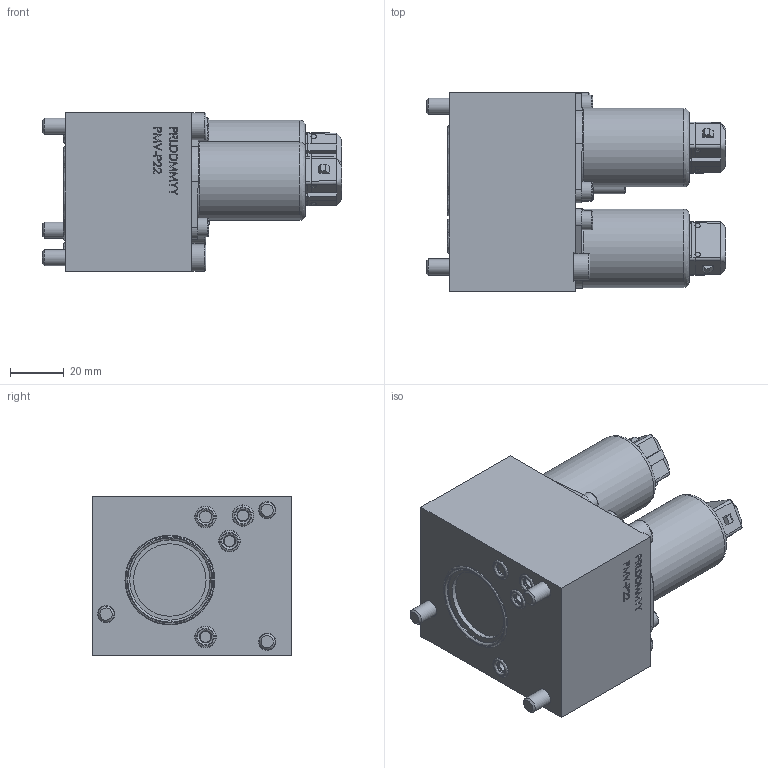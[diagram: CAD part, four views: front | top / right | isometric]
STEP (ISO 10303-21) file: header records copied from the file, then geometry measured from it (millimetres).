
FILE_DESCRIPTION (( 'STEP AP214' ), '1' );
FILE_NAME ('0304543.STEP', '2022-08-02T13:15:32', ( '' ), ( '' ), 'SwSTEP 2.0', 'SolidWorks 2020', '' );
FILE_SCHEMA (( 'AUTOMOTIVE_DESIGN' ));
Length unit declared in the file: millimetre
Products named in the file (10): 0291147_002; 0283782_001; 0074669_079.3160; 0074697_246.1510; 0073842_153.2301; 0290158_012; 0304543; 0074748_246.3156; 0293053_002; 0290158_001
Assembly tree (22 placements, depth 2):
  0304543
    0293053_002
    0291147_002  x2
    0073842_153.2301
    0074697_246.1510  x4
    0074748_246.3156  x3
    0074669_079.3160
    0283782_001  x5
    0290158_001  x4
    0290158_012
Bounding box: 111.6 x 74 x 59 mm (x, y, z)
Volume: 243045.5 mm3; surface area: 69272 mm2
Topology: 27 solids, 29 shells, 1153 faces, 2823 edges, 1820 vertices
Faces by surface type: plane 563, cylinder 217, cone 188, bspline 169, torus 16
Full cylindrical faces by diameter (mm): 0.6 x5, 1.1 x5, 2.2 x2, 2.4 x16, 3.3 x4, 3.5 x5, 3.767 x5, 3.8 x2, 4 x12, 4.47 x4, 4.5 x4, 5 x2, 6 x4, 6.162 x2, 6.4 x3, 6.9 x2, 7 x4, 7.8 x4, 8 x2, 8.03 x4, 8.314 x2, 8.9 x2, 9 x4, 9.1 x4, 9.5 x2, 9.9 x2, 10 x3, 10.1 x2, 11.1 x4, 11.5 x2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
Entity records: 46880 total; most frequent: CARTESIAN_POINT 30934, ORIENTED_EDGE 2882, DIRECTION 2584, EDGE_CURVE 1441, VERTEX_POINT 1035, EDGE_LOOP 956, AXIS2_PLACEMENT_3D 887, LINE 810
